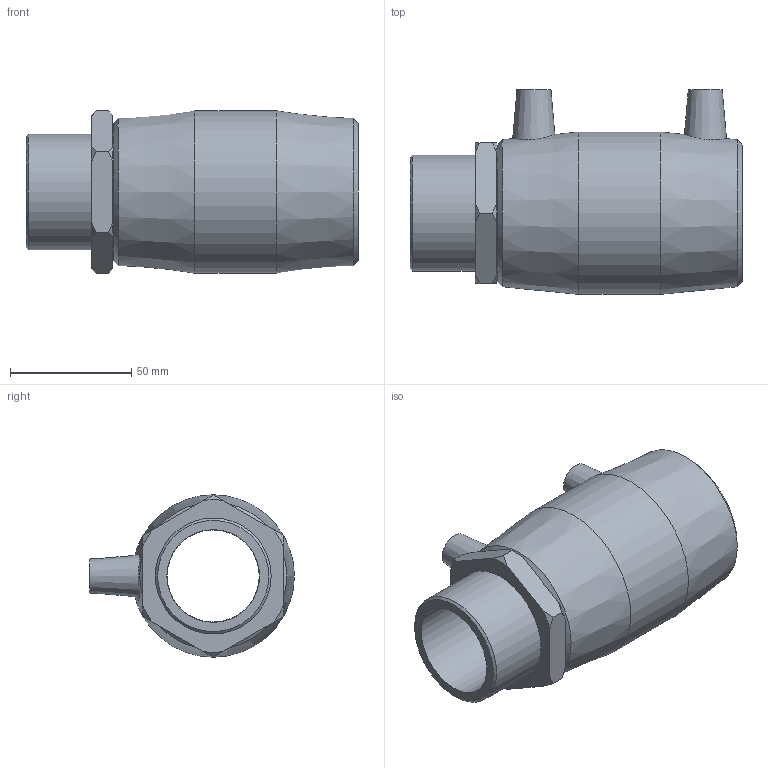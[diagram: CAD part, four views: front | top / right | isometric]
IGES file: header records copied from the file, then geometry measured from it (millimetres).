
Global section: file name: 492104050015.ipt; native system: Autodesk Inventor 2015; preprocessor: unknown; author: KIM; date: 20200202.122318; units: millimetre
Bounding box: 137 x 84.5 x 67 mm (x, y, z)
Volume: 214787.5 mm3; surface area: 55063.5 mm2
Topology: 1 solids, 2 shells, 54 faces, 129 edges, 88 vertices
Faces by surface type: plane 21, cone 19, revolution 8, cylinder 6
Full cylindrical faces by diameter (mm): 4 x2, 47.803 x1, 50 x2, 67 x1
